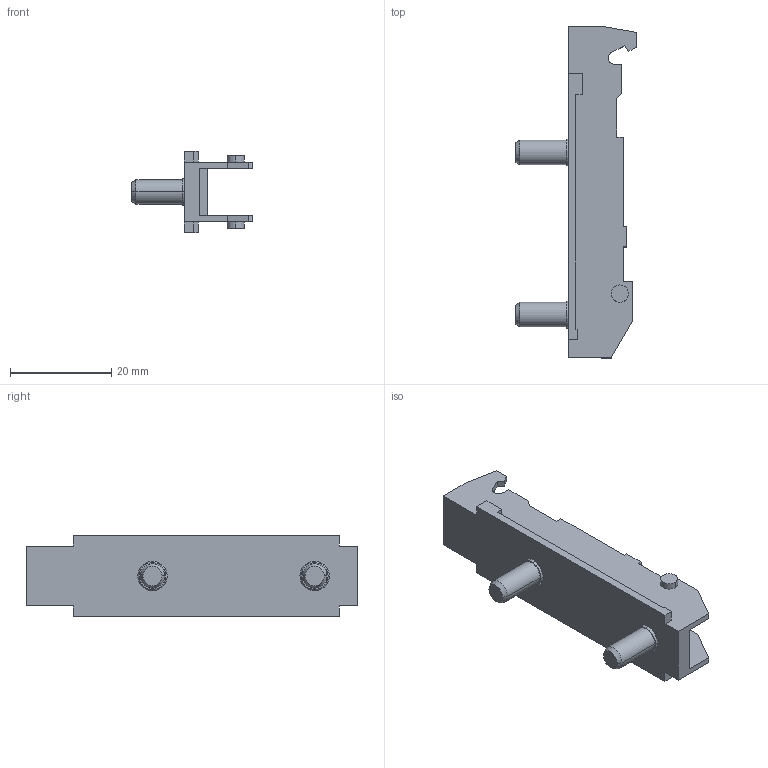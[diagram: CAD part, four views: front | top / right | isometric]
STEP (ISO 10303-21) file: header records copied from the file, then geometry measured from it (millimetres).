
FILE_DESCRIPTION (( 'STEP AP214' ), '1' );
FILE_NAME ('1D_Linearmontageplatte 20_32_Euroschraube vormontiert_H03.step', '2010-11-18T10:17:25', ( 'grass' ), ( '' ), 'SwSTEP 2.0', 'SolidWorks 2010', '' );
FILE_SCHEMA (( 'AUTOMOTIVE_DESIGN' ));
Length unit declared in the file: millimetre
Products named in the file (1): 1D_Linearmontageplatte 20_32_Euroschraube vormontiert_H03
Bounding box: 23.85 x 65.5 x 16 mm (x, y, z)
Volume: 4559.1 mm3; surface area: 5073.8 mm2
Topology: 1 solids, 1 shells, 102 faces, 264 edges, 172 vertices
Faces by surface type: plane 72, cylinder 22, cone 8
Entity records: 3114 total; most frequent: CARTESIAN_POINT 539, ORIENTED_EDGE 528, DIRECTION 518, EDGE_CURVE 264, LINE 216, VECTOR 216, VERTEX_POINT 172, AXIS2_PLACEMENT_3D 151
